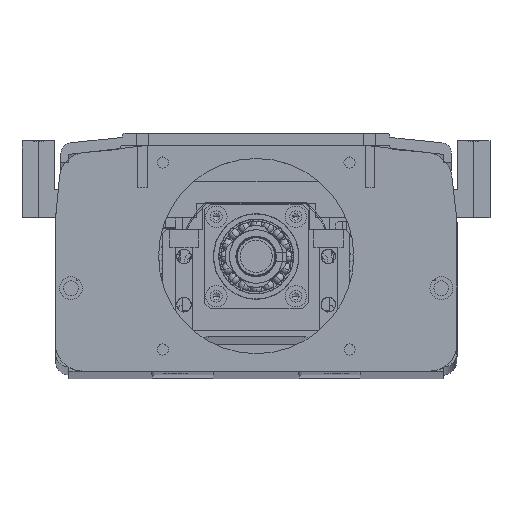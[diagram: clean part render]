
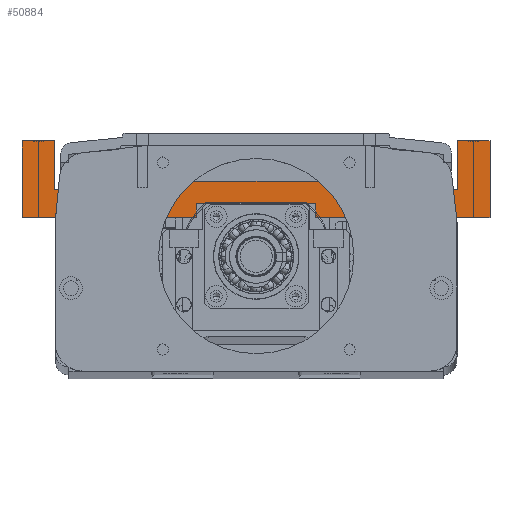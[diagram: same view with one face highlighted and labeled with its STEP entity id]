
A CAD part, top view. The second image highlights one B-rep face of the part: STEP entity #50884.
In plain terms, the highlighted planar face has unit normal (0, 0, 1).
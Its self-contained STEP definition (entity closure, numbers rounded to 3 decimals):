
#99 = VECTOR ( 'NONE', #2570, 1000. ) ;
#639 = DIRECTION ( 'NONE',  ( -1., 0., 0. ) ) ;
#947 = ORIENTED_EDGE ( 'NONE', *, *, #2372, .F. ) ;
#2372 = EDGE_CURVE ( 'NONE', #77354, #48351, #108121, .T. ) ;
#2554 = ORIENTED_EDGE ( 'NONE', *, *, #18985, .T. ) ;
#2570 = DIRECTION ( 'NONE',  ( 0., 1., 0. ) ) ;
#2748 = EDGE_CURVE ( 'NONE', #79803, #94299, #25539, .T. ) ;
#2846 = CARTESIAN_POINT ( 'NONE',  ( -36.791, -63.676, 150. ) ) ;
#3404 = VERTEX_POINT ( 'NONE', #111163 ) ;
#3773 = EDGE_CURVE ( 'NONE', #73612, #48351, #24046, .T. ) ;
#3904 = DIRECTION ( 'NONE',  ( 0., -1., 0. ) ) ;
#5598 = VERTEX_POINT ( 'NONE', #7764 ) ;
#6729 = ORIENTED_EDGE ( 'NONE', *, *, #3773, .T. ) ;
#7189 = EDGE_CURVE ( 'NONE', #9232, #77354, #57366, .T. ) ;
#7572 = VECTOR ( 'NONE', #24737, 1000. ) ;
#7764 = CARTESIAN_POINT ( 'NONE',  ( 52.459, -63.676, 150. ) ) ;
#8066 = CARTESIAN_POINT ( 'NONE',  ( -36.791, -53.176, 150. ) ) ;
#8243 = DIRECTION ( 'NONE',  ( 0., 1., 0. ) ) ;
#8544 = VECTOR ( 'NONE', #74810, 1000. ) ;
#9107 = DIRECTION ( 'NONE',  ( 1., 0., 0. ) ) ;
#9232 = VERTEX_POINT ( 'NONE', #100746 ) ;
#10494 = CARTESIAN_POINT ( 'NONE',  ( -57.291, -63.676, 150. ) ) ;
#11066 = DIRECTION ( 'NONE',  ( 0., 1., 0. ) ) ;
#11437 = CARTESIAN_POINT ( 'NONE',  ( -36.791, -50.176, 150. ) ) ;
#11624 = ORIENTED_EDGE ( 'NONE', *, *, #106293, .T. ) ;
#11819 = DIRECTION ( 'NONE',  ( 0., -1., 0. ) ) ;
#12191 = CARTESIAN_POINT ( 'NONE',  ( -45.291, -50.176, 150. ) ) ;
#12869 = CARTESIAN_POINT ( 'NONE',  ( -57.291, -35.176, 150. ) ) ;
#15335 = VERTEX_POINT ( 'NONE', #94735 ) ;
#15748 = CARTESIAN_POINT ( 'NONE',  ( 97.209, -63.676, 150. ) ) ;
#16505 = CARTESIAN_POINT ( 'NONE',  ( 7.959, -58.676, 150. ) ) ;
#17737 = DIRECTION ( 'NONE',  ( 0., -1., 0. ) ) ;
#18985 = EDGE_CURVE ( 'NONE', #90493, #79803, #58904, .T. ) ;
#19023 = EDGE_CURVE ( 'NONE', #15335, #90493, #77121, .T. ) ;
#19331 = CARTESIAN_POINT ( 'NONE',  ( -57.291, -63.676, 150. ) ) ;
#19493 = DIRECTION ( 'NONE',  ( 1., 0., 0. ) ) ;
#22613 = EDGE_CURVE ( 'NONE', #59555, #63899, #110406, .T. ) ;
#24046 = LINE ( 'NONE', #86955, #66021 ) ;
#24737 = DIRECTION ( 'NONE',  ( -1., 0., 0. ) ) ;
#25443 = LINE ( 'NONE', #44722, #96821 ) ;
#25539 = LINE ( 'NONE', #88265, #94080 ) ;
#25670 = DIRECTION ( 'NONE',  ( -1., 0., 0. ) ) ;
#28078 = CARTESIAN_POINT ( 'NONE',  ( -45.291, -35.176, 150. ) ) ;
#28634 = VERTEX_POINT ( 'NONE', #87030 ) ;
#36248 = CARTESIAN_POINT ( 'NONE',  ( -57.291, -35.176, 150. ) ) ;
#36778 = VECTOR ( 'NONE', #76926, 1000. ) ;
#37640 = VECTOR ( 'NONE', #17737, 1000. ) ;
#37925 = CARTESIAN_POINT ( 'NONE',  ( 117.709, -35.176, 150. ) ) ;
#40780 = ORIENTED_EDGE ( 'NONE', *, *, #95077, .T. ) ;
#41145 = CARTESIAN_POINT ( 'NONE',  ( 7.959, -58.676, 150. ) ) ;
#42016 = VERTEX_POINT ( 'NONE', #54734 ) ;
#43534 = EDGE_CURVE ( 'NONE', #5598, #28634, #25443, .T. ) ;
#43678 = ORIENTED_EDGE ( 'NONE', *, *, #43534, .T. ) ;
#44722 = CARTESIAN_POINT ( 'NONE',  ( -57.291, -63.676, 150. ) ) ;
#46194 = EDGE_CURVE ( 'NONE', #28634, #59555, #113373, .T. ) ;
#46916 = CARTESIAN_POINT ( 'NONE',  ( 97.209, -53.176, 150. ) ) ;
#48351 = VERTEX_POINT ( 'NONE', #59842 ) ;
#50884 = ADVANCED_FACE ( 'NONE', ( #71139 ), #52746, .T. ) ;
#51530 = ORIENTED_EDGE ( 'NONE', *, *, #46194, .T. ) ;
#52664 = EDGE_CURVE ( 'NONE', #107997, #15335, #86382, .T. ) ;
#52746 = PLANE ( 'NONE',  #55101 ) ;
#53724 = VECTOR ( 'NONE', #3904, 1000. ) ;
#54734 = CARTESIAN_POINT ( 'NONE',  ( -57.291, -35.176, 150. ) ) ;
#55101 = AXIS2_PLACEMENT_3D ( 'NONE', #10494, #73104, #19493 ) ;
#55160 = LINE ( 'NONE', #78330, #7572 ) ;
#56410 = DIRECTION ( 'NONE',  ( -1., 0., 0. ) ) ;
#57366 = LINE ( 'NONE', #41145, #60190 ) ;
#58905 = CARTESIAN_POINT ( 'NONE',  ( 7.959, -58.676, 150. ) ) ;
#58904 = LINE ( 'NONE', #2846, #103699 ) ;
#59555 = VERTEX_POINT ( 'NONE', #37925 ) ;
#59842 = CARTESIAN_POINT ( 'NONE',  ( 7.959, -63.676, 150. ) ) ;
#60190 = VECTOR ( 'NONE', #103689, 1000. ) ;
#62605 = CARTESIAN_POINT ( 'NONE',  ( 105.709, -35.176, 150. ) ) ;
#62814 = ORIENTED_EDGE ( 'NONE', *, *, #52664, .T. ) ;
#63851 = VECTOR ( 'NONE', #11066, 1000. ) ;
#63899 = VERTEX_POINT ( 'NONE', #62605 ) ;
#64200 = LINE ( 'NONE', #89751, #37640 ) ;
#65149 = CARTESIAN_POINT ( 'NONE',  ( 117.709, -35.176, 150. ) ) ;
#65395 = VECTOR ( 'NONE', #78367, 1000. ) ;
#65809 = CARTESIAN_POINT ( 'NONE',  ( -45.291, -53.176, 150. ) ) ;
#66021 = VECTOR ( 'NONE', #113872, 1000. ) ;
#70499 = EDGE_CURVE ( 'NONE', #3404, #107997, #55160, .T. ) ;
#70836 = CARTESIAN_POINT ( 'NONE',  ( -45.291, -35.176, 150. ) ) ;
#71139 = FACE_OUTER_BOUND ( 'NONE', #76769, .T. ) ;
#71286 = EDGE_CURVE ( 'NONE', #42016, #73612, #80312, .T. ) ;
#73104 = DIRECTION ( 'NONE',  ( 0., 0., 1. ) ) ;
#73612 = VERTEX_POINT ( 'NONE', #19331 ) ;
#74810 = DIRECTION ( 'NONE',  ( -1., 0., 0. ) ) ;
#75790 = VERTEX_POINT ( 'NONE', #28078 ) ;
#76769 = EDGE_LOOP ( 'NONE', ( #947, #104180, #103332, #43678, #51530, #89030, #11624, #88817, #62814, #83990, #2554, #104239, #40780, #86216, #78946, #6729 ) ) ;
#76926 = DIRECTION ( 'NONE',  ( 0., -1., 0. ) ) ;
#77121 = LINE ( 'NONE', #12191, #8544 ) ;
#77354 = VERTEX_POINT ( 'NONE', #16505 ) ;
#77782 = LINE ( 'NONE', #70836, #98776 ) ;
#78330 = CARTESIAN_POINT ( 'NONE',  ( -57.291, -53.176, 150. ) ) ;
#78367 = DIRECTION ( 'NONE',  ( 0., 1., 0. ) ) ;
#78946 = ORIENTED_EDGE ( 'NONE', *, *, #71286, .T. ) ;
#79803 = VERTEX_POINT ( 'NONE', #8066 ) ;
#80096 = EDGE_CURVE ( 'NONE', #75790, #42016, #87310, .T. ) ;
#80312 = LINE ( 'NONE', #12869, #53724 ) ;
#83990 = ORIENTED_EDGE ( 'NONE', *, *, #19023, .T. ) ;
#86216 = ORIENTED_EDGE ( 'NONE', *, *, #80096, .T. ) ;
#86382 = LINE ( 'NONE', #15748, #65395 ) ;
#86659 = VECTOR ( 'NONE', #56410, 1000. ) ;
#86955 = CARTESIAN_POINT ( 'NONE',  ( -57.291, -63.676, 150. ) ) ;
#87030 = CARTESIAN_POINT ( 'NONE',  ( 117.709, -63.676, 150. ) ) ;
#87310 = LINE ( 'NONE', #36248, #105466 ) ;
#87661 = LINE ( 'NONE', #100286, #63851 ) ;
#88265 = CARTESIAN_POINT ( 'NONE',  ( -57.291, -53.176, 150. ) ) ;
#88817 = ORIENTED_EDGE ( 'NONE', *, *, #70499, .T. ) ;
#89030 = ORIENTED_EDGE ( 'NONE', *, *, #22613, .T. ) ;
#89751 = CARTESIAN_POINT ( 'NONE',  ( 105.709, -35.176, 150. ) ) ;
#90493 = VERTEX_POINT ( 'NONE', #11437 ) ;
#94016 = EDGE_CURVE ( 'NONE', #5598, #9232, #87661, .T. ) ;
#94080 = VECTOR ( 'NONE', #25670, 1000. ) ;
#94299 = VERTEX_POINT ( 'NONE', #65809 ) ;
#94735 = CARTESIAN_POINT ( 'NONE',  ( 97.209, -50.176, 150. ) ) ;
#95077 = EDGE_CURVE ( 'NONE', #94299, #75790, #77782, .T. ) ;
#96821 = VECTOR ( 'NONE', #9107, 1000. ) ;
#98776 = VECTOR ( 'NONE', #8243, 1000. ) ;
#100286 = CARTESIAN_POINT ( 'NONE',  ( 52.459, -58.676, 150. ) ) ;
#100746 = CARTESIAN_POINT ( 'NONE',  ( 52.459, -58.676, 150. ) ) ;
#103332 = ORIENTED_EDGE ( 'NONE', *, *, #94016, .F. ) ;
#103689 = DIRECTION ( 'NONE',  ( -1., 0., 0. ) ) ;
#103699 = VECTOR ( 'NONE', #11819, 1000. ) ;
#104180 = ORIENTED_EDGE ( 'NONE', *, *, #7189, .F. ) ;
#104239 = ORIENTED_EDGE ( 'NONE', *, *, #2748, .T. ) ;
#105466 = VECTOR ( 'NONE', #639, 1000. ) ;
#106293 = EDGE_CURVE ( 'NONE', #63899, #3404, #64200, .T. ) ;
#107997 = VERTEX_POINT ( 'NONE', #46916 ) ;
#108121 = LINE ( 'NONE', #58905, #36778 ) ;
#109975 = CARTESIAN_POINT ( 'NONE',  ( 105.709, -35.176, 150. ) ) ;
#110406 = LINE ( 'NONE', #109975, #86659 ) ;
#111163 = CARTESIAN_POINT ( 'NONE',  ( 105.709, -53.176, 150. ) ) ;
#113373 = LINE ( 'NONE', #65149, #99 ) ;
#113872 = DIRECTION ( 'NONE',  ( 1., 0., 0. ) ) ;
